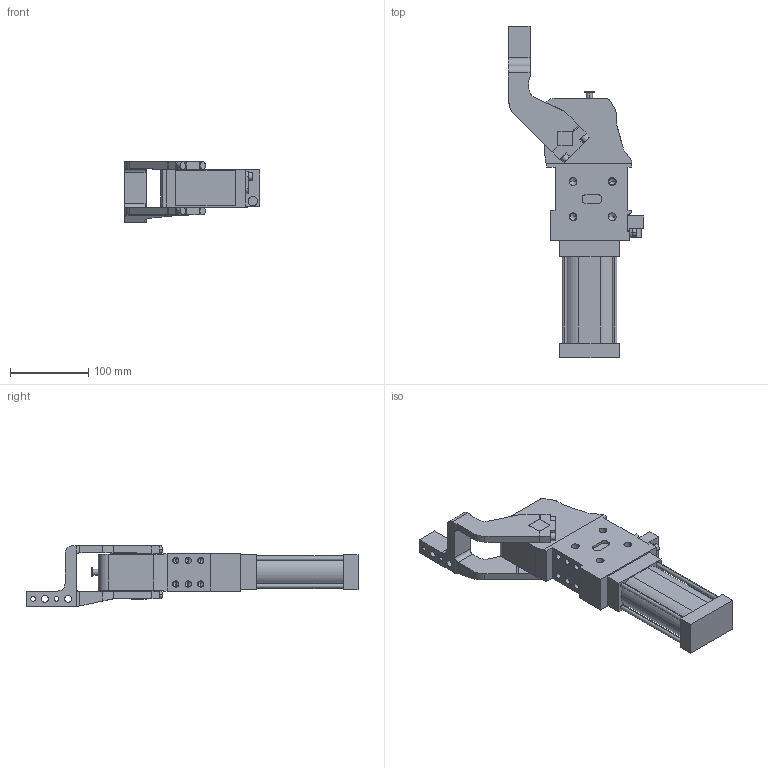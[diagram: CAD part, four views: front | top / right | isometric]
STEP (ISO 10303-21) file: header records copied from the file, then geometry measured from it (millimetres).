
FILE_DESCRIPTION (( 'STEP AP214' ), '1' );
FILE_NAME ('cpl50h3di1g_107.STEP', '2023-01-26T09:53:45', ( '' ), ( '' ), 'SwSTEP 2.0', 'SolidWorks 2022', '' );
FILE_SCHEMA (( 'AUTOMOTIVE_DESIGN' ));
Length unit declared in the file: millimetre
Products named in the file (4): cpl50h3di1g_107; blocchetto_VEP_0; meccanica_cpl_50; leva_sx_offset_45_cpl50
Assembly tree (3 placements, depth 2):
  cpl50h3di1g_107
    meccanica_cpl_50
    blocchetto_VEP_0
    leva_sx_offset_45_cpl50
Bounding box: 173.5 x 424.5 x 78.5 mm (x, y, z)
Volume: 1401486.7 mm3; surface area: 167143.1 mm2
Topology: 3 solids, 3 shells, 401 faces, 1035 edges, 643 vertices
Faces by surface type: plane 195, cylinder 156, cone 50
Entity records: 13476 total; most frequent: CARTESIAN_POINT 2142, DIRECTION 2110, ORIENTED_EDGE 1978, EDGE_CURVE 989, AXIS2_PLACEMENT_3D 729, VECTOR 652, LINE 652, VERTEX_POINT 643
